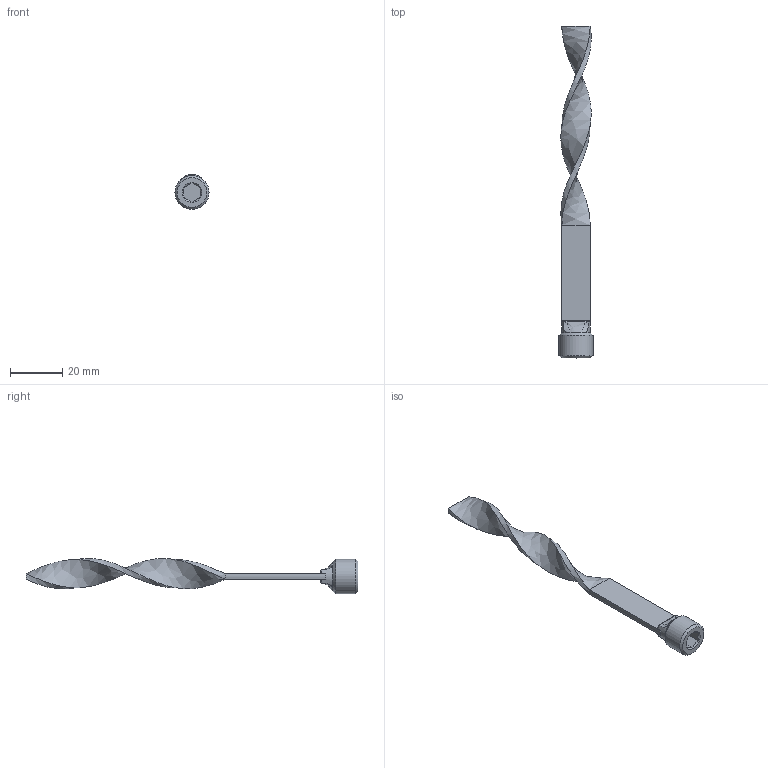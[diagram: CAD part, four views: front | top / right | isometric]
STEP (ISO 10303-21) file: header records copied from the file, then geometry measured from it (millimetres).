
FILE_DESCRIPTION(/* description */ (''),/* implementation_level */ '2;1');
FILE_NAME(/* name */ 'C:/Users/drich/Desktop/TB14X5BSP v1.step',/* time_stamp */ '2020-01-14T09:24:32-06:00',/* author */ (''),/* organization */ (''),/* preprocessor_version */ 'ST-DEVELOPER v18',/* originating_system */ 'Autodesk Translation Framework v8.12.0.6',/* authorisation */ '');
FILE_SCHEMA (('AUTOMOTIVE_DESIGN { 1 0 10303 214 3 1 1 }'));
Length unit declared in the file: inch
Products named in the file (1): TB14X5BSP
Bounding box: 13.03 x 127 x 13.41 mm (x, y, z)
Volume: 3927.2 mm3; surface area: 3933.2 mm2
Topology: 2 solids, 2 shells, 45 faces, 115 edges, 75 vertices
Faces by surface type: plane 21, bspline 10, cylinder 6, torus 5, cone 3
Full cylindrical faces by diameter (mm): 10.82 x1, 13.032 x1
Entity records: 1935 total; most frequent: CARTESIAN_POINT 853, ORIENTED_EDGE 230, DIRECTION 199, EDGE_CURVE 115, AXIS2_PLACEMENT_3D 76, VERTEX_POINT 75, LINE 47, VECTOR 47
